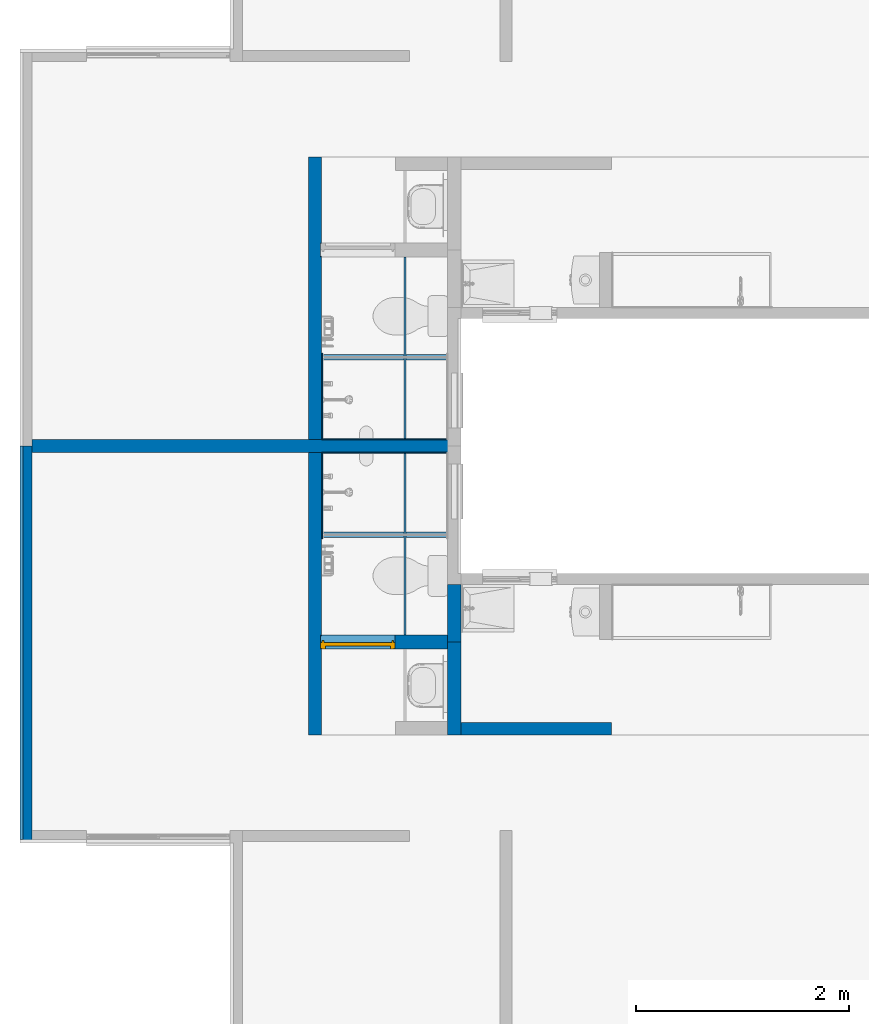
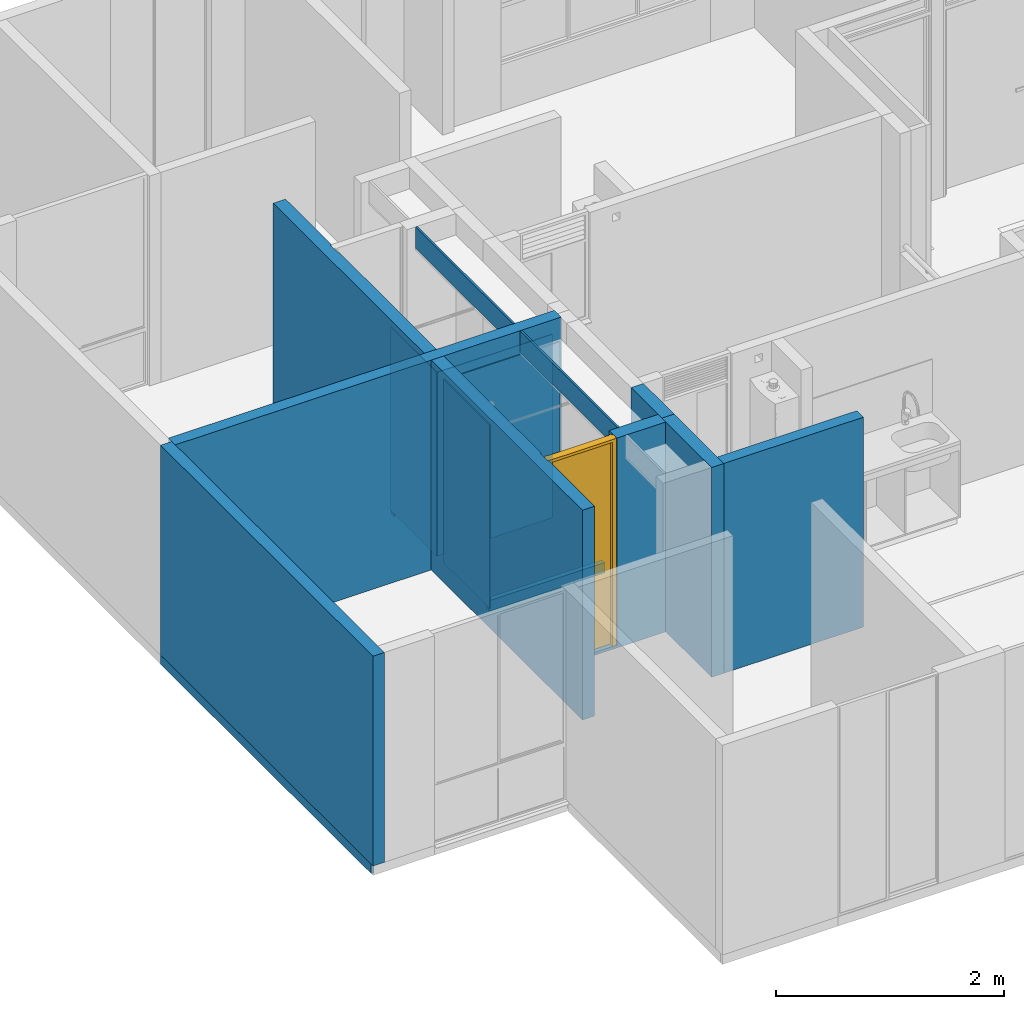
# One storey, part 7 of 47: 17 walls, 1 door, 3 openings.
"""IFC4 building model written with IfcOpenShell, lengths in metres."""

from ifc_helpers import new_model, entity, si_unit, converted_unit, derived_unit, direction, frame, origin, place, context, subcontext, project, spatial, indexed_curve, outline, extrude, polygons, source, transform, mapped, material, constituent, constituent_set, type_object, type_shapes, element, fill, save


model = new_model("IFC4")

# Units and contexts
model_context = context("Model", 3, precision=1e-05, world=origin(), true_north=direction((6.123031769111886e-17, 1.0)))
body_context = subcontext(model_context, "Body", "Model", "MODEL_VIEW")
ifc_project = project(units=[si_unit("LENGTHUNIT", "METRE"), si_unit("AREAUNIT", "SQUARE_METRE"), si_unit("VOLUMEUNIT", "CUBIC_METRE"), converted_unit("PLANEANGLEUNIT", "DEGREE", entity("IfcRatioMeasure", 0.017453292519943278), si_unit("PLANEANGLEUNIT", "RADIAN"), dimensions=[0, 0, 0, 0, 0, 0, 0]), si_unit("MASSUNIT", "GRAM", prefix="KILO"), derived_unit("MASSDENSITYUNIT", [(si_unit("MASSUNIT", "GRAM", prefix="KILO"), 1), (si_unit("LENGTHUNIT", "METRE"), -3)]), derived_unit("IONCONCENTRATIONUNIT", [(si_unit("MASSUNIT", "GRAM", prefix="KILO"), 1), (si_unit("LENGTHUNIT", "METRE"), -3)]), derived_unit("MOMENTOFINERTIAUNIT", [(si_unit("LENGTHUNIT", "METRE"), 4)]), si_unit("TIMEUNIT", "SECOND"), si_unit("FREQUENCYUNIT", "HERTZ"), si_unit("THERMODYNAMICTEMPERATUREUNIT", "DEGREE_CELSIUS"), derived_unit("THERMALTRANSMITTANCEUNIT", [(si_unit("MASSUNIT", "GRAM", prefix="KILO"), 1), (si_unit("THERMODYNAMICTEMPERATUREUNIT", "KELVIN"), -1), (si_unit("TIMEUNIT", "SECOND"), -3)]), derived_unit("THERMALCONDUCTANCEUNIT", [(si_unit("MASSUNIT", "GRAM", prefix="KILO"), 1), (si_unit("THERMODYNAMICTEMPERATUREUNIT", "KELVIN"), -1), (si_unit("TIMEUNIT", "SECOND"), -3), (si_unit("LENGTHUNIT", "METRE"), 1)]), derived_unit("VOLUMETRICFLOWRATEUNIT", [(si_unit("LENGTHUNIT", "METRE"), 3), (si_unit("TIMEUNIT", "SECOND"), -1)]), derived_unit("MASSFLOWRATEUNIT", [(si_unit("MASSUNIT", "GRAM", prefix="KILO"), 1), (si_unit("TIMEUNIT", "SECOND"), -1)]), derived_unit("ROTATIONALFREQUENCYUNIT", [(si_unit("TIMEUNIT", "SECOND"), -1)]), si_unit("ELECTRICCURRENTUNIT", "AMPERE"), si_unit("ELECTRICVOLTAGEUNIT", "VOLT"), si_unit("POWERUNIT", "WATT"), si_unit("FORCEUNIT", "NEWTON", prefix="KILO"), si_unit("ILLUMINANCEUNIT", "LUX"), si_unit("LUMINOUSFLUXUNIT", "LUMEN"), si_unit("LUMINOUSINTENSITYUNIT", "CANDELA"), derived_unit("USERDEFINED", [(si_unit("MASSUNIT", "GRAM", prefix="KILO"), -1), (si_unit("LENGTHUNIT", "METRE"), -2), (si_unit("TIMEUNIT", "SECOND"), 3), (si_unit("LUMINOUSFLUXUNIT", "LUMEN"), 1)]), derived_unit("USERDEFINED", [(si_unit("MASSUNIT", "GRAM", prefix="KILO"), 1), (si_unit("TIMEUNIT", "SECOND"), -3), (si_unit("LENGTHUNIT", "METRE"), 3), (si_unit("ELECTRICCURRENTUNIT", "AMPERE"), -2)]), derived_unit("SOUNDPOWERUNIT", [(si_unit("MASSUNIT", "GRAM", prefix="KILO"), 1), (si_unit("TIMEUNIT", "SECOND"), -3), (si_unit("LENGTHUNIT", "METRE"), 2)]), derived_unit("SOUNDPRESSUREUNIT", [(si_unit("MASSUNIT", "GRAM", prefix="KILO"), 1), (si_unit("LENGTHUNIT", "METRE"), -1), (si_unit("TIMEUNIT", "SECOND"), -2)]), derived_unit("LINEARVELOCITYUNIT", [(si_unit("LENGTHUNIT", "METRE"), 1), (si_unit("TIMEUNIT", "SECOND"), -1)]), si_unit("PRESSUREUNIT", "PASCAL"), derived_unit("USERDEFINED", [(si_unit("MASSUNIT", "GRAM", prefix="KILO"), 1), (si_unit("LENGTHUNIT", "METRE"), -2), (si_unit("TIMEUNIT", "SECOND"), -2)]), derived_unit("LINEARFORCEUNIT", [(si_unit("MASSUNIT", "GRAM", prefix="KILO"), 1), (si_unit("TIMEUNIT", "SECOND"), -2)]), derived_unit("PLANARFORCEUNIT", [(si_unit("MASSUNIT", "GRAM", prefix="KILO"), 1), (si_unit("LENGTHUNIT", "METRE"), -1), (si_unit("TIMEUNIT", "SECOND"), -2)]), derived_unit("SPECIFICHEATCAPACITYUNIT", [(si_unit("THERMODYNAMICTEMPERATUREUNIT", "KELVIN"), -1), (si_unit("LENGTHUNIT", "METRE"), 2), (si_unit("TIMEUNIT", "SECOND"), -2)]), derived_unit("HEATINGVALUEUNIT", [(si_unit("LENGTHUNIT", "METRE"), 2), (si_unit("TIMEUNIT", "SECOND"), -2)]), derived_unit("VAPORPERMEABILITYUNIT", [(si_unit("LENGTHUNIT", "METRE"), -1), (si_unit("TIMEUNIT", "SECOND"), 1)]), derived_unit("DYNAMICVISCOSITYUNIT", [(si_unit("MASSUNIT", "GRAM", prefix="KILO"), 1), (si_unit("TIMEUNIT", "SECOND"), -1), (si_unit("LENGTHUNIT", "METRE"), -1)]), derived_unit("THERMALEXPANSIONCOEFFICIENTUNIT", [(si_unit("THERMODYNAMICTEMPERATUREUNIT", "KELVIN"), -1)]), derived_unit("MODULUSOFELASTICITYUNIT", [(si_unit("MASSUNIT", "GRAM", prefix="KILO"), 1), (si_unit("LENGTHUNIT", "METRE"), -1), (si_unit("TIMEUNIT", "SECOND"), -2)]), derived_unit("ISOTHERMALMOISTURECAPACITYUNIT", [(si_unit("LENGTHUNIT", "METRE"), 3), (si_unit("MASSUNIT", "GRAM", prefix="KILO"), -1)]), derived_unit("MOISTUREDIFFUSIVITYUNIT", [(si_unit("TIMEUNIT", "SECOND"), -1), (si_unit("LENGTHUNIT", "METRE"), 2)])], contexts=[model_context])

# Site, building, storey
site_placement = place(None, origin())
site = spatial("IfcSite", under=ifc_project, at=site_placement, Name="Default", CompositionType="ELEMENT")
building_placement = place(site_placement, origin())
building = spatial("IfcBuilding", under=site, at=building_placement, CompositionType="ELEMENT")
storey_placement = place(building_placement, frame((0.0, 0.0, 11.750000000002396)))
storey = spatial("IfcBuildingStorey", under=building, at=storey_placement, Name="Nivel 6", CompositionType="ELEMENT", Elevation=11.750000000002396)

# Walls
ifc_material_1 = material(Name="Concreto (Aire)", Category="Materials")
wall_type_1 = type_object("IfcWallType", Name="Basic Wall:B2010 - 0.12m - Muro interior en concreto", PredefinedType="STANDARD")
wall_1_placement = place(storey_placement, frame((0.057499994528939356, -6.425000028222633, 0.0)))
element("IfcWall", 1, at=wall_1_placement, inside=storey, type_object=wall_type_1, material=ifc_material_1, Name="Basic Wall:B2010 - 0.12m - Muro interior en concreto", ObjectType="Basic Wall:B2010 - 0.12m - Muro interior en concreto", PredefinedType="NOTDEFINED", context=body_context, shape_type="SweptSolid", body=[
    extrude(outline(indexed_curve([(3.915, 0.06000000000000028), (-2.183027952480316e-18, 0.060000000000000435), (2.183027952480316e-18, -0.060000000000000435), (3.915, -0.06000000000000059), (3.915, 0.06000000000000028)], self_intersect=False)), origin(), (0.0, 0.0, 1.0), 2.2500000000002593),
])
ifc_material_2 = material(Name="Ladrillo claro (Aire)", Category="Materials")
wall_type_2 = type_object("IfcWallType", Name="Basic Wall:B2010 - 0.115m - Muro exterior en mampostería - Ladrillo", PredefinedType="STANDARD")
wall_2_placement = place(storey_placement, frame((0.0, -10.155000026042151, 0.0), z_axis=(0.0, 0.0, 1.0), x_axis=(0.0, 1.0, 0.0)))
element("IfcWall", 2, at=wall_2_placement, inside=storey, type_object=wall_type_2, material=ifc_material_2, Name="Basic Wall:B2010 - 0.115m - Muro exterior en mampostería - Ladrillo", ObjectType="Basic Wall:B2010 - 0.115m - Muro exterior en mampostería - Ladrillo", PredefinedType="NOTDEFINED", context=body_context, shape_type="SweptSolid", body=[
    extrude(outline(indexed_curve([(3.729999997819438, 0.0575), (2.3598386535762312e-16, 0.0575), (-2.3598386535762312e-16, -0.0575), (3.729999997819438, -0.0575), (3.729999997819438, 0.0575)], self_intersect=False)), origin(), (0.0, 0.0, 1.0), 2.2500000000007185),
])
wall_type_3 = type_object("IfcWallType", Name="Basic Wall:B2010 - 0.115m - Muro interior en mampostería - Ladrillo", PredefinedType="STANDARD")
wall_3_placement = place(storey_placement, frame((4.087499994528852, -9.082499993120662, 0.0)))
element("IfcWall", 3, at=wall_3_placement, inside=storey, type_object=wall_type_3, material=ifc_material_2, Name="Basic Wall:B2010 - 0.115m - Muro interior en mampostería - Ladrillo", ObjectType="Basic Wall:B2010 - 0.115m - Muro interior en mampostería - Ladrillo", PredefinedType="NOTDEFINED", context=body_context, shape_type="SweptSolid", body=[
    extrude(outline(indexed_curve([(1.414999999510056, 0.05749999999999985), (-1.7283953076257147e-16, 0.057499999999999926), (1.7283953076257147e-16, -0.057499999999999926), (1.4149999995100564, -0.0575), (1.414999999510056, 0.05749999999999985)], self_intersect=False)), origin(), (0.0, 0.0, 1.0), 2.2499999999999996),
])

# Wall, opening
ifc_material_3 = material(Name="Pañete", Category="Materials")
ifc_constituent_1 = constituent(ifc_material_3, Name="Pañete", Category="Materials")
ifc_constituent_2 = constituent(ifc_material_2, Name="Ladrillo claro (Aire)", Category="Materials")
ifc_constituent_set_1 = constituent_set(constituents=[ifc_constituent_1, ifc_constituent_2], Name="Basic Wall:B2010 - 0.115m - Muro interior en mampostería - Ladrillo + Pañete")
wall_type_4 = type_object("IfcWallType", Name="Basic Wall:B2010 - 0.115m - Muro interior en mampostería - Ladrillo + Pañete", PredefinedType="STANDARD", material=ifc_constituent_set_1)
wall_4_placement = place(storey_placement, frame((2.7150010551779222, -3.7100000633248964, 0.0), z_axis=(0.0, 0.0, 1.0), x_axis=(0.0, -1.0, 0.0)))
wall_4 = element("IfcWall", 4, at=wall_4_placement, inside=storey, type_object=wall_type_4, material=ifc_constituent_set_1, Name="Basic Wall:B2010 - 0.115m - Muro interior en mampostería - Ladrillo + Pañete", ObjectType="Basic Wall:B2010 - 0.115m - Muro interior en mampostería - Ladrillo + Pañete", PredefinedType="NOTDEFINED", context=body_context, shape_type="SweptSolid", body=[
    extrude(outline(indexed_curve([(-1.1325000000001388, -1.0999999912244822), (1.1174999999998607, -1.0999999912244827), (1.1175000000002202, -0.294999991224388), (-1.1024999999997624, -0.29499999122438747), (-1.1024999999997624, -0.15999999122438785), (1.1174999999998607, -0.1599999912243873), (1.1174999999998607, 1.5549999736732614), (-1.1325000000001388, 1.5549999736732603), (-1.1325000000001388, -1.0999999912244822)], self_intersect=False)), frame((1.0999999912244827, 0.0524999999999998, 1.1325000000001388), z_axis=(0.0, 1.0, 0.0), x_axis=(0.0, 0.0, 1.0)), (0.0, 0.0, 1.0), 0.009999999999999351),
    extrude(outline(indexed_curve([(-0.05750000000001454, -1.3274999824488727), (0.05749999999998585, -1.3274999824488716), (0.05750000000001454, 1.327499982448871), (-0.057499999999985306, 1.3274999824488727), (-0.05750000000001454, -1.3274999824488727)], self_intersect=False)), frame((1.3274999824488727, -0.005000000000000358, 0.0), z_axis=(0.0, 0.0, 1.0), x_axis=(0.0, 1.0, 0.0)), (0.0, 0.0, 1.0), 2.2499999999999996),
])
opening_1_placement = place(wall_4_placement, origin())
element("IfcOpeningElement", 5, at=opening_1_placement, cuts=wall_4, Name="Basic Wall:B2010 - 0.115m - Muro interior en mampostería - Ladrillo + Pañete", PredefinedType="OPENING", context=body_context, shape_type="SweptSolid", body=[
    extrude(outline(indexed_curve([(-0.06749999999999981, -1.1099999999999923), (0.06750000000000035, -1.1099999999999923), (0.06750000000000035, 1.1099999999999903), (-0.06749999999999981, 1.1099999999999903), (-0.06749999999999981, -1.1099999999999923)], self_intersect=False)), frame((0.8725000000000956, 0.05249999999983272, 1.140000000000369), z_axis=(0.0, 1.0, 0.0), x_axis=(-1.0, 0.0, 0.0)), (0.0, 0.0, 1.0), 0.7000000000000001),
])

wall_5_placement = place(storey_placement, frame((2.7150010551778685, -9.139999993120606, 0.0), z_axis=(0.0, 0.0, 1.0), x_axis=(0.0, 1.0, 0.0)))
wall_5 = element("IfcWall", 6, at=wall_5_placement, inside=storey, type_object=wall_type_4, material=ifc_constituent_set_1, Name="Basic Wall:B2010 - 0.115m - Muro interior en mampostería - Ladrillo + Pañete", ObjectType="Basic Wall:B2010 - 0.115m - Muro interior en mampostería - Ladrillo + Pañete", PredefinedType="NOTDEFINED", context=body_context, shape_type="SweptSolid", body=[
    extrude(outline(indexed_curve([(-1.1325000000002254, -1.5549999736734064), (1.1174999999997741, -1.5549999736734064), (1.1175000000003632, 0.15999999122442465), (-1.1024999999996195, 0.15999999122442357), (-1.1024999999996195, 0.2949999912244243), (1.1174999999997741, 0.2949999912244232), (1.1174999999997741, 1.0999999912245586), (-1.1325000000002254, 1.0999999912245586), (-1.1325000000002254, -1.5549999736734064)], self_intersect=False)), frame((1.0999999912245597, -0.052500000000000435, 1.1325000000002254), z_axis=(0.0, -1.0, 0.0), x_axis=(0.0, 0.0, 1.0)), (0.0, 0.0, 1.0), 0.009999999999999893),
    extrude(outline(indexed_curve([(-0.05749999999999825, -1.3274999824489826), (0.0575000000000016, -1.3274999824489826), (0.05749999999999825, 1.3274999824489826), (-0.0575000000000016, 1.3274999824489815), (-0.05749999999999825, -1.3274999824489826)], self_intersect=False)), frame((1.327499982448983, 0.004999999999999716, 0.0), z_axis=(0.0, 0.0, 1.0), x_axis=(0.0, -1.0, 0.0)), (0.0, 0.0, 1.0), 2.2499999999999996),
])
opening_2_placement = place(wall_5_placement, origin())
element("IfcOpeningElement", 7, at=opening_2_placement, cuts=wall_5, Name="Basic Wall:B2010 - 0.115m - Muro interior en mampostería - Ladrillo + Pañete", PredefinedType="OPENING", context=body_context, shape_type="SweptSolid", body=[
    extrude(outline(indexed_curve([(-0.06749999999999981, -1.1099999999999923), (0.06749999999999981, -1.1099999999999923), (0.06749999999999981, 1.1099999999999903), (-0.06749999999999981, 1.1099999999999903), (-0.06749999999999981, -1.1099999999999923)], self_intersect=False)), frame((0.8725000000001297, -0.7524999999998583, 1.1400000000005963), z_axis=(0.0, 1.0, 0.0), x_axis=(1.0, 0.0, 0.0)), (0.0, 0.0, 1.0), 0.7000000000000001),
])

# Wall, opening, door
ifc_constituent_3 = constituent(ifc_material_3, Name="Pañete", Category="Materials")
ifc_material_4 = material(Name="LADRILLO CLARO", Category="Materials")
ifc_constituent_4 = constituent(ifc_material_4, Name="LADRILLO CLARO", Category="Materials")
ifc_constituent_5 = constituent(ifc_material_3, Name="Pañete (2)", Category="Materials")
ifc_constituent_set_2 = constituent_set(constituents=[ifc_constituent_3, ifc_constituent_4, ifc_constituent_5], Name="Basic Wall:B2010 - 0.115m - MI  mampostería no estructural - Pañete + Ladrillo + Pañete")
wall_type_5 = type_object("IfcWallType", Name="Basic Wall:B2010 - 0.115m - MI  mampostería no estructural - Pañete + Ladrillo + Pañete", PredefinedType="STANDARD", material=ifc_constituent_set_2)
wall_6_placement = place(storey_placement, frame((3.9624999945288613, -8.26749999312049, 0.0), z_axis=(0.0, 0.0, 1.0), x_axis=(-1.0, 0.0, 0.0)))
wall_6 = element("IfcWall", 8, at=wall_6_placement, inside=storey, type_object=wall_type_5, material=ifc_constituent_set_2, Name="Basic Wall:B2010 - 0.115m - MI  mampostería no estructural - Pañete + Ladrillo + Pañete", ObjectType="Basic Wall:B2010 - 0.115m - MI  mampostería no estructural - Pañete + Ladrillo + Pañete", PredefinedType="NOTDEFINED", context=body_context, shape_type="SweptSolid", body=[
    extrude(outline(indexed_curve([(-0.7600000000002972, -0.6249996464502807), (-0.729999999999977, -0.6249996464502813), (-0.729999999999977, 0.06500035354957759), (1.4900000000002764, 0.06500035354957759), (1.4900000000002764, 0.5599992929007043), (-0.7600000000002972, 0.5599992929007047), (-0.7600000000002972, -0.6249996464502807)], self_intersect=False)), frame((0.5599992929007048, -0.057499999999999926, 0.760000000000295), z_axis=(0.0, -1.0, 0.0), x_axis=(0.0, 0.0, 1.0)), (0.0, 0.0, 1.0), 0.009999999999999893),
    extrude(outline(indexed_curve([(-1.1325000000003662, -0.6649994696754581), (-1.102500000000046, -0.6649994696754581), (-1.102500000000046, 0.02500053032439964), (1.1175000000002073, 0.02500053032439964), (1.1175000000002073, 0.10999946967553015), (1.1175000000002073, 0.12999946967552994), (1.1175000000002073, 0.5199994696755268), (-1.1325000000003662, 0.5199994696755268), (-1.1325000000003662, -0.6649994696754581)], self_intersect=False)), frame((0.5199994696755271, 0.06749999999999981, 1.1325000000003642), z_axis=(0.0, -1.0, 0.0), x_axis=(0.0, 0.0, 1.0)), (0.0, 0.0, 1.0), 0.009999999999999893),
    extrude(outline(indexed_curve([(-0.7600000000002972, -0.631666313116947), (-0.729999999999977, -0.631666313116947), (-0.729999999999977, 0.0683336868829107), (1.4900000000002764, 0.0683336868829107), (1.4900000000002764, 0.5633326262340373), (-0.7600000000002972, 0.5633326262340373), (-0.7600000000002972, -0.631666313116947)], self_intersect=False)), frame((0.5633326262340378, 0.057499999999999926, 0.760000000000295), z_axis=(0.0, -1.0, 0.0), x_axis=(0.0, 0.0, 1.0)), (0.0, 0.0, 1.0), 0.11499999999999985),
])
opening_3_placement = place(wall_6_placement, frame((1.1949989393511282, 0.06749999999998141, 0.0299999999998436)))
opening_3 = element("IfcOpeningElement", 9, at=opening_3_placement, cuts=wall_6, Name="C1030 - Puerta batiente - Madera+Aluminio:C1030 - 0.70 x 2.22 - Puerta batiente - Madera+ Metal:1", PredefinedType="OPENING", context=body_context, shape_type="SweptSolid", body=[
    extrude(outline(indexed_curve([(1.438182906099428e-16, 0.7000000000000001), (1.438182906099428e-16, 0.0), (2.219999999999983, 0.0), (2.2199999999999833, 0.7000000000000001), (1.438182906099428e-16, 0.7000000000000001)], self_intersect=False)), frame((0.0, 0.0, 0.0), z_axis=(0.0, -1.0, 0.0), x_axis=(0.0, 0.0, 1.0)), (0.0, 0.0, 1.0), 0.13499999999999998),
])
ifc_material_5 = material(Name="<Unnamed>")
door_type = type_object("IfcDoorType", Name="C1030 - Puerta batiente - Madera+Aluminio:C1030 - 0.70 x 2.22 - Puerta batiente - Madera+ Metal", OperationType="SINGLE_SWING_LEFT", PredefinedType="DOOR", material=ifc_material_5)
shared_shape = source(origin(), body_context, "Body", "Tessellation", [
    polygons([(0.6699999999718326, 0.06499999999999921, 0.009880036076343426), (0.6699999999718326, 0.0324999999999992, 0.009880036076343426), (0.030000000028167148, 0.0324999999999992, 0.009880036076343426), (0.030000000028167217, 0.06499999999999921, 0.009880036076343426), (0.6699999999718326, 0.06499999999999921, 2.2050000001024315), (0.6699999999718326, 0.0324999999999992, 2.2050000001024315), (0.030000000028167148, 0.0324999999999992, 2.2050000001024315), (0.030000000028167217, 0.06499999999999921, 2.2050000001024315)], [[[1, 2, 3, 4]], [[5, 6, 2, 1]], [[6, 7, 3, 2]], [[7, 8, 4, 3]], [[8, 5, 1, 4]], [[5, 8, 7, 6]]], closed=True),
    polygons([(0.6849999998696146, 0.0649999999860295, 0.0), (0.7, 0.0649999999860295, 0.0), (0.7, 0.0074999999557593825, 0.0), (0.6849999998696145, 0.007499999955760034, 0.0), (0.6849999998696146, -5.075939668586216e-17, 0.0), (0.6549999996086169, -1.6919798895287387e-17, 0.0), (0.6549999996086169, 0.04000000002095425, 0.0), (0.6699999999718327, 0.04000000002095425, 0.0), (0.6699999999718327, 0.07999999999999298, 0.0), (0.6849999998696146, 0.07999999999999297, 0.0), (0.7, 0.0074999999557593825, 2.2199999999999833), (0.6849999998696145, 0.007499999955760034, 2.2199999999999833), (0.6849999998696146, 0.0649999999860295, 2.2199999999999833), (0.7, 0.0649999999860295, 2.2199999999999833), (0.015000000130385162, 0.06499999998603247, 0.0), (0.015000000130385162, 0.07999999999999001, 0.0), (0.030000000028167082, 0.07999999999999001, 0.0), (0.030000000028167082, 0.04000000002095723, 0.0), (0.04500000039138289, 0.04000000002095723, 0.0), (0.04500000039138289, 0.0, 0.0), (0.01500000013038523, 0.0, 0.0), (0.015000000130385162, 0.007499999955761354, 0.0), (0.0, 0.007499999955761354, 0.0), (0.0, 0.06499999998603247, 0.0), (0.0, 0.06499999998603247, 2.2199999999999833), (0.015000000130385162, 0.06499999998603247, 2.2199999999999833), (0.015000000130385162, 0.007499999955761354, 2.2199999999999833), (0.0, 0.007499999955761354, 2.2199999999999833), (0.04500000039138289, 0.04000000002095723, 2.2050000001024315), (0.04500000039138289, 0.03250000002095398, 2.2050000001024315), (0.04500000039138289, 0.03250000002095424, 2.189999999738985), (0.04500000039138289, 0.0, 2.189999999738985), (0.6549999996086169, -1.6919798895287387e-17, 2.189999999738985), (0.6549999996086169, 0.032500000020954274, 2.189999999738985), (0.6549999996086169, 0.03250000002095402, 2.2050000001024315), (0.6549999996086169, 0.04000000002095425, 2.2050000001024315), (0.030000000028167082, 0.07999999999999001, 2.2199999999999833), (0.030000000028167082, 0.07249999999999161, 2.2199999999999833), (0.030000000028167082, 0.07249999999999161, 2.2050000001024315), (0.030000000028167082, 0.04000000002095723, 2.2050000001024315), (0.6699999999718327, 0.04000000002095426, 2.2050000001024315), (0.6699999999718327, 0.07249999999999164, 2.2050000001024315), (0.6699999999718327, 0.07249999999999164, 2.2199999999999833), (0.6699999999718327, 0.07999999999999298, 2.2199999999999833), (0.015000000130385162, 0.07999999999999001, 2.2199999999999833), (0.6849999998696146, -5.075939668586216e-17, 2.2199999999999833), (0.01500000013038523, 0.0, 2.2199999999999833), (0.6849999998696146, 0.07999999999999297, 2.2199999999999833)], [[[1, 2, 3, 4, 5, 6, 7, 8, 9, 10]], [[11, 12, 4, 3]], [[13, 14, 2, 1]], [[15, 16, 17, 18, 19, 20, 21, 22, 23, 24]], [[25, 26, 15, 24]], [[27, 28, 23, 22]], [[20, 19, 29, 30, 31, 32]], [[7, 6, 33, 34, 35, 36]], [[18, 17, 37, 38, 39, 40]], [[9, 8, 41, 42, 43, 44]], [[28, 25, 24, 23]], [[14, 11, 3, 2]], [[26, 45, 16, 15]], [[45, 37, 17, 16]], [[19, 18, 40, 29]], [[21, 20, 32, 33, 6, 5, 46, 47]], [[47, 27, 22, 21]], [[12, 46, 5, 4]], [[48, 13, 1, 10]], [[26, 25, 28, 27, 47, 46, 12, 11, 14, 13, 48, 44, 43, 38, 37, 45]], [[39, 42, 41, 36, 35, 30, 29, 40]], [[33, 32, 31, 34]], [[8, 7, 36, 41]], [[44, 48, 10, 9]], [[34, 31, 30, 35]], [[42, 39, 38, 43]]], closed=True),
])
type_shapes(door_type, [shared_shape])
door_placement = place(opening_3_placement, frame((0.0, 0.0, 0.0), z_axis=(0.0, 0.0, 1.0), x_axis=(-1.0, 0.0, 0.0)))
door = element("IfcDoor", 10, at=door_placement, inside=storey, type_object=door_type, material=ifc_material_5, Name="C1030 - Puerta batiente - Madera+Aluminio:C1030 - 0.70 x 2.22 - Puerta batiente - Madera+ Metal", ObjectType="C1030 - Puerta batiente - Madera+Aluminio:C1030 - 0.70 x 2.22 - Puerta batiente - Madera+ Metal", OperationType="NOTDEFINED", OverallHeight=2.2199999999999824, OverallWidth=0.7000000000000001, PredefinedType="DOOR", context=body_context, shape_type="MappedRepresentation", body=[
    mapped(shared_shape, transform((0.0, 0.0, 0.0), scale=1.0)),
])
fill(opening_3, door)

# Walls
ifc_material_6 = material(Name="Pañete, estuco y pintura", Category="Materials")
ifc_constituent_6 = constituent(ifc_material_6, Name="Pañete, estuco y pintura", Category="Materials")
ifc_constituent_7 = constituent(ifc_material_2, Name="Ladrillo claro (Aire)", Category="Materials")
ifc_constituent_set_3 = constituent_set(constituents=[ifc_constituent_6, ifc_constituent_7], Name="Basic Wall:B2010 - 0.115m - Muro interior en mampostería - Ladrillo + Pañete+ estuco+ pintura")
wall_type_6 = type_object("IfcWallType", Name="Basic Wall:B2010 - 0.115m - Muro interior en mampostería - Ladrillo + Pañete+ estuco+ pintura", PredefinedType="STANDARD", material=ifc_constituent_set_3)
wall_7_placement = place(storey_placement, frame((4.024999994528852, -9.13999999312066, 0.0), z_axis=(0.0, 0.0, 1.0), x_axis=(0.0, 1.0, 0.0)))
element("IfcWall", 11, at=wall_7_placement, inside=storey, type_object=wall_type_6, material=ifc_constituent_set_3, Name="Basic Wall:B2010 - 0.115m - Muro interior en mampostería - Ladrillo + Pañete+ estuco+ pintura", ObjectType="Basic Wall:B2010 - 0.115m - Muro interior en mampostería - Ladrillo + Pañete+ estuco+ pintura", PredefinedType="NOTDEFINED", context=body_context, shape_type="SweptSolid", body=[
    extrude(outline(indexed_curve([(-0.3591666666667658, -0.003333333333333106), (0.32083333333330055, -0.0033333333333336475), (0.44583333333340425, -0.003333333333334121), (0.4458333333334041, 0.006666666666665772), (-0.4266666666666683, 0.006666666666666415), (-0.42666666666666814, -0.0033333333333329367), (-0.3591666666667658, -0.003333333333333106)], self_intersect=False)), frame((0.44583333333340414, 0.059166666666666, 0.0), z_axis=(0.0, 0.0, 1.0), x_axis=(-1.0, 0.0, 0.0)), (0.0, 0.0, 1.0), 2.2499999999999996),
    extrude(outline(indexed_curve([(-0.25700000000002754, -0.046000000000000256), (0.5005000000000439, -0.046000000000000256), (0.5005000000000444, 0.06900000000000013), (-0.372000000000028, 0.0690000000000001), (-0.37200000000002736, -0.045999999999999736), (-0.25700000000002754, -0.046000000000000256)], self_intersect=False)), frame((0.37200000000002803, -0.01650000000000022, 0.0)), (0.0, 0.0, 1.0), 2.2499999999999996),
])
wall_8_placement = place(storey_placement, frame((4.024999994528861, -8.267499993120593, 0.0), z_axis=(0.0, 0.0, 1.0), x_axis=(0.0, 1.0, 0.0)))
element("IfcWall", 12, at=wall_8_placement, inside=storey, type_object=wall_type_6, material=ifc_constituent_set_3, Name="Basic Wall:B2010 - 0.115m - Muro interior en mampostería - Ladrillo + Pañete+ estuco+ pintura", ObjectType="Basic Wall:B2010 - 0.115m - Muro interior en mampostería - Ladrillo + Pañete+ estuco+ pintura", PredefinedType="NOTDEFINED", context=body_context, shape_type="SweptSolid", body=[
    extrude(outline(indexed_curve([(0.16280569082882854, -0.004000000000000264), (0.23030569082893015, -0.004000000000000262), (0.23030569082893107, 0.0059999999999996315), (-0.3117085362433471, 0.00599999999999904), (-0.31170853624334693, -0.004000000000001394), (0.16280569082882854, -0.004000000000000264)], self_intersect=False)), frame((0.23030569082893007, 0.058499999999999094, 0.0), z_axis=(0.0, 0.0, 1.0), x_axis=(-1.0, 0.0, 0.0)), (0.0, 0.0, 1.0), 2.2499999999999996),
    extrude(outline(indexed_curve([(-0.12467143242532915, -0.03833333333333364), (-0.0906714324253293, -0.03833333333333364), (0.32484282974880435, -0.03833333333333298), (0.3248428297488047, 0.07666666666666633), (-0.21717139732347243, 0.07666666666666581), (-0.21717139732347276, -0.03833333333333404), (-0.12467143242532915, -0.03833333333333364)], self_intersect=False)), frame((0.2171713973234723, -0.024166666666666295, 0.0)), (0.0, 0.0, 1.0), 2.2499999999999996),
])
ifc_material_7 = material(Name="Ceramica 0.25m x 0.35m", Category="Materials")
wall_type_7 = type_object("IfcWallType", Name="Basic Wall:C2010 - 0.25 x 0.35 - Enchape cerámico", PredefinedType="STANDARD")
wall_9_placement = place(storey_placement, frame((2.7825010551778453, -6.365000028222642, 0.029999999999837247), z_axis=(0.0, 0.0, 1.0), x_axis=(0.0, 1.0, 0.0)))
element("IfcWall", 13, at=wall_9_placement, inside=storey, type_object=wall_type_7, material=ifc_material_7, Name="Basic Wall:C2010 - 0.25 x 0.35 - Enchape cerámico", ObjectType="Basic Wall:C2010 - 0.25 x 0.35 - Enchape cerámico", PredefinedType="NOTDEFINED", context=body_context, shape_type="SweptSolid", body=[
    extrude(outline(indexed_curve([(0.8099999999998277, 0.00500000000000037), (-3.269267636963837e-17, 0.004999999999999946), (3.269267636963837e-17, -0.004999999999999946), (0.8099999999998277, -0.004999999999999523), (0.8099999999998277, 0.00500000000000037)], self_intersect=False)), origin(), (0.0, 0.0, 1.0), 1.9700000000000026),
])
wall_10_placement = place(storey_placement, frame((2.787501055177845, -6.360000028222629, 0.029999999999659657)))
element("IfcWall", 14, at=wall_10_placement, inside=storey, type_object=wall_type_7, material=ifc_material_7, Name="Basic Wall:C2010 - 0.25 x 0.35 - Enchape cerámico", ObjectType="Basic Wall:C2010 - 0.25 x 0.35 - Enchape cerámico", PredefinedType="NOTDEFINED", context=body_context, shape_type="SweptSolid", body=[
    extrude(outline(indexed_curve([(1.1649989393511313, 0.004999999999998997), (-2.3810892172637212e-17, 0.004999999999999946), (2.3810892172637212e-17, -0.004999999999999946), (1.1649989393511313, -0.005000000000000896), (1.1649989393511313, 0.004999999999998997)], self_intersect=False)), origin(), (0.0, 0.0, 1.0), 1.9700000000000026),
])
wall_11_placement = place(storey_placement, frame((2.7825010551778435, -6.485000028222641, 0.029999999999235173), z_axis=(0.0, 0.0, 1.0), x_axis=(0.0, -1.0, 0.0)))
element("IfcWall", 15, at=wall_11_placement, inside=storey, type_object=wall_type_7, material=ifc_material_7, Name="Basic Wall:C2010 - 0.25 x 0.35 - Enchape cerámico", ObjectType="Basic Wall:C2010 - 0.25 x 0.35 - Enchape cerámico", PredefinedType="NOTDEFINED", context=body_context, shape_type="SweptSolid", body=[
    extrude(outline(indexed_curve([(0.8100000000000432, 0.004999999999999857), (-6.295025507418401e-17, 0.004999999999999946), (6.295025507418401e-17, -0.004999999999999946), (0.8100000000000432, -0.005000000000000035), (0.8100000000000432, 0.004999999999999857)], self_intersect=False)), origin(), (0.0, 0.0, 1.0), 1.9700000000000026),
])
wall_12_placement = place(storey_placement, frame((2.787501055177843, -6.49000002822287, 0.029999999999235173)))
element("IfcWall", 16, at=wall_12_placement, inside=storey, type_object=wall_type_7, material=ifc_material_7, Name="Basic Wall:C2010 - 0.25 x 0.35 - Enchape cerámico", ObjectType="Basic Wall:C2010 - 0.25 x 0.35 - Enchape cerámico", PredefinedType="NOTDEFINED", context=body_context, shape_type="SweptSolid", body=[
    extrude(outline(indexed_curve([(1.1649989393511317, 0.004999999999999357), (-7.183203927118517e-17, 0.004999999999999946), (7.183203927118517e-17, -0.004999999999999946), (1.164998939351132, -0.005000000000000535), (1.1649989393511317, 0.004999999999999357)], self_intersect=False)), origin(), (0.0, 0.0, 1.0), 1.9700000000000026),
])
ifc_material_8 = material(Name="0 muro divisorio", Category="Materials")
wall_type_8 = type_object("IfcWallType", Name="Basic Wall:B2010 - 0.05m - Poyo para duchas - Concreto", PredefinedType="STANDARD")
wall_13_placement = place(storey_placement, frame((2.777501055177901, -5.590000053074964, 0.0)))
element("IfcWall", 17, at=wall_13_placement, inside=storey, type_object=wall_type_8, material=ifc_material_8, Name="Basic Wall:B2010 - 0.05m - Poyo para duchas - Concreto", ObjectType="Basic Wall:B2010 - 0.05m - Poyo para duchas - Concreto", PredefinedType="NOTDEFINED", context=body_context, shape_type="SweptSolid", body=[
    extrude(outline(indexed_curve([(1.1749989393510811, 0.02499999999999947), (7.46625923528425e-17, 0.02499999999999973), (-7.46625923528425e-17, -0.02499999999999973), (1.1749989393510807, -0.024999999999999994), (1.1749989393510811, 0.02499999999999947)], self_intersect=False)), origin(), (0.0, 0.0, 1.0), 0.1100000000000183),
])
wall_14_placement = place(storey_placement, frame((2.7775010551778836, -7.260000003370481, 0.0)))
element("IfcWall", 18, at=wall_14_placement, inside=storey, type_object=wall_type_8, material=ifc_material_8, Name="Basic Wall:B2010 - 0.05m - Poyo para duchas - Concreto", ObjectType="Basic Wall:B2010 - 0.05m - Poyo para duchas - Concreto", PredefinedType="NOTDEFINED", context=body_context, shape_type="SweptSolid", body=[
    extrude(outline(indexed_curve([(1.1749989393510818, 0.025000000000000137), (-7.772420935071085e-17, 0.02499999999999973), (7.772420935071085e-17, -0.02499999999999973), (1.174998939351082, -0.024999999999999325), (1.1749989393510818, 0.025000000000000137)], self_intersect=False)), origin(), (0.0, 0.0, 1.0), 0.1100000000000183),
])
ifc_material_9 = material(Name="Plasterboard", Category="Materials")
wall_type_9 = type_object("IfcWallType", Name="Basic Wall:C1070 - 0.02m - Plafón - Drywall", PredefinedType="STANDARD")
wall_15_placement = place(storey_placement, frame((3.5624999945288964, -6.365000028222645, 2.019999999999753), z_axis=(0.0, 0.0, 1.0), x_axis=(0.0, 1.0, 0.0)))
element("IfcWall", 19, at=wall_15_placement, inside=storey, type_object=wall_type_9, material=ifc_material_9, Name="Basic Wall:C1070 - 0.02m - Plafón - Drywall", ObjectType="Basic Wall:C1070 - 0.02m - Plafón - Drywall", PredefinedType="NOTDEFINED", context=body_context, shape_type="SweptSolid", body=[
    extrude(outline(indexed_curve([(1.71499996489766, 0.00999999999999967), (7.706224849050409e-17, 0.009999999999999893), (-7.706224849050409e-17, -0.009999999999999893), (1.71499996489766, -0.010000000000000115), (1.71499996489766, 0.00999999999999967)], self_intersect=False)), origin(), (0.0, 0.0, 1.0), 0.23000000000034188),
])
wall_16_placement = place(storey_placement, frame((3.5624999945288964, -6.485000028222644, 2.019999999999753), z_axis=(0.0, 0.0, 1.0), x_axis=(0.0, -1.0, 0.0)))
element("IfcWall", 20, at=wall_16_placement, inside=storey, type_object=wall_type_9, material=ifc_material_9, Name="Basic Wall:C1070 - 0.02m - Plafón - Drywall", ObjectType="Basic Wall:C1070 - 0.02m - Plafón - Drywall", PredefinedType="NOTDEFINED", context=body_context, shape_type="SweptSolid", body=[
    extrude(outline(indexed_curve([(1.7149999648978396, 0.009999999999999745), (-1.4120029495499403e-16, 0.009999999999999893), (1.4120029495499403e-16, -0.009999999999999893), (1.71499996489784, -0.01000000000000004), (1.7149999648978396, 0.009999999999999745)], self_intersect=False)), origin(), (0.0, 0.0, 1.0), 0.23000000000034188),
])
wall_type_10 = type_object("IfcWallType", Name="Basic Wall:B2010 - 0.03m - ME enchape  no estructural - Ladrillo", PredefinedType="STANDARD")
wall_17_placement = place(storey_placement, frame((-0.04249999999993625, -10.125000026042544, -0.10000000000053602), z_axis=(0.0, 0.0, 1.0), x_axis=(0.0, 1.0, 0.0)))
element("IfcWall", 21, at=wall_17_placement, inside=storey, type_object=wall_type_10, material=ifc_material_4, Name="Basic Wall:B2010 - 0.03m - ME enchape  no estructural - Ladrillo", ObjectType="Basic Wall:B2010 - 0.03m - ME enchape  no estructural - Ladrillo", PredefinedType="NOTDEFINED", context=body_context, shape_type="SweptSolid", body=[
    extrude(outline(indexed_curve([(3.699999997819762, 0.015000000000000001), (2.6129816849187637e-17, 0.015), (-2.6129816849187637e-17, -0.015), (3.699999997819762, -0.015000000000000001), (3.699999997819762, 0.015000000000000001)], self_intersect=False)), origin(), (0.0, 0.0, 1.0), 0.09999999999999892),
])

save(model, "model.ifc")
